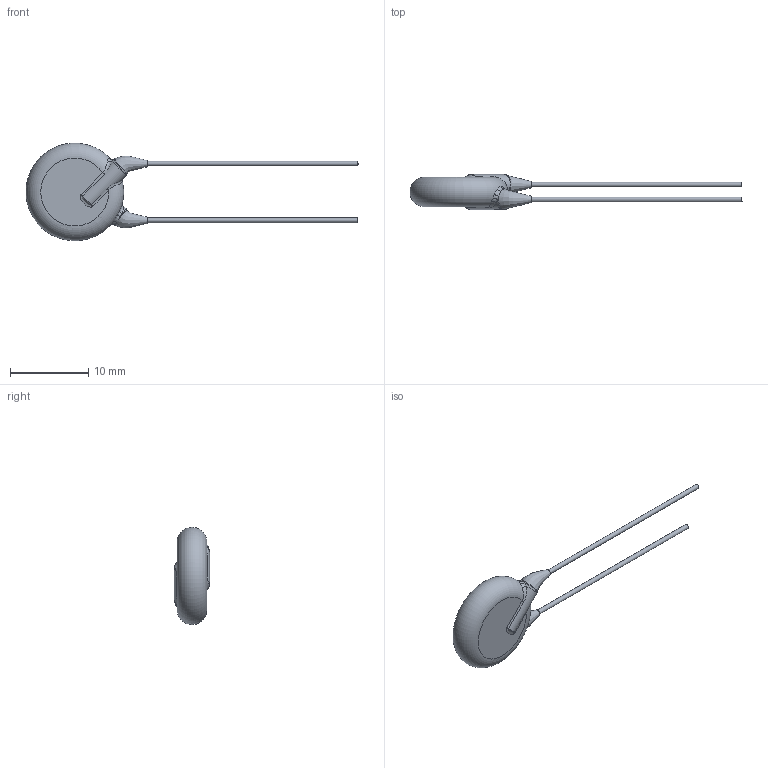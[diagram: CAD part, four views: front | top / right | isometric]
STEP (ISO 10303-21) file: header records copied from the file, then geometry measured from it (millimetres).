
FILE_DESCRIPTION(/* description */ (''),/* implementation_level */ '2;1');
FILE_NAME(/* name */ 'I:\Marketing\M6t1\3D-Models\Zchng-Werk-3\Upload for homepage\Roederstein\WYO\Y5U_250-440\WYO502MCMCF0KR\WYO502MCMCF0KR.stp',/* time_stamp */ '2018-03-20T15:59:28+01:00',/* author */ ('sheinrich'),/* organization */ (''),/* preprocessor_version */ 'ST-DEVELOPER v16.1',/* originating_system */ 'Autodesk Inventor 2016',/* authorisation */ '');
FILE_SCHEMA (('AUTOMOTIVE_DESIGN { 1 0 10303 214 3 1 1 }'));
Length unit declared in the file: centimetre
Products named in the file (1): WYO502MCMCF0KR
Bounding box: 42.5 x 4.5 x 12.47 mm (x, y, z)
Volume: 456.3 mm3; surface area: 473.8 mm2
Topology: 1 solids, 1 shells, 43 faces, 96 edges, 57 vertices
Faces by surface type: bspline 22, cylinder 8, torus 7, plane 6
Full cylindrical faces by diameter (mm): 0.6 x2
Entity records: 2152 total; most frequent: CARTESIAN_POINT 1271, ORIENTED_EDGE 184, DIRECTION 124, EDGE_CURVE 92, AXIS2_PLACEMENT_3D 58, VERTEX_POINT 56, B_SPLINE_CURVE_WITH_KNOTS 48, EDGE_LOOP 48
